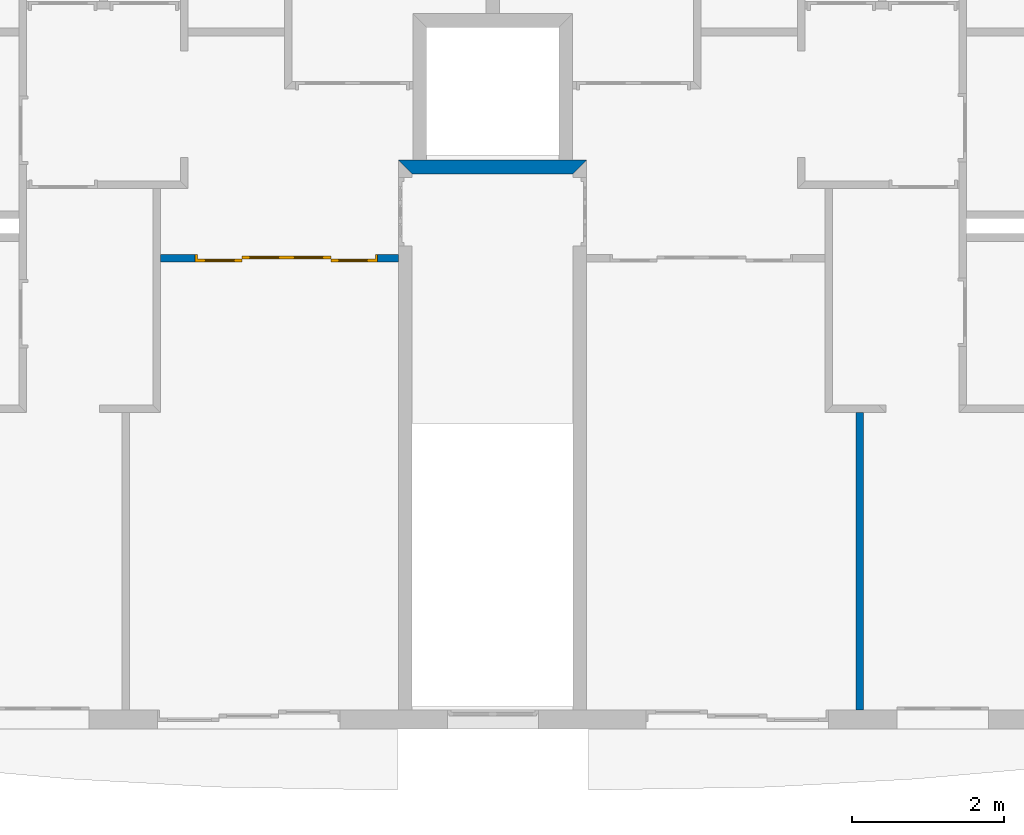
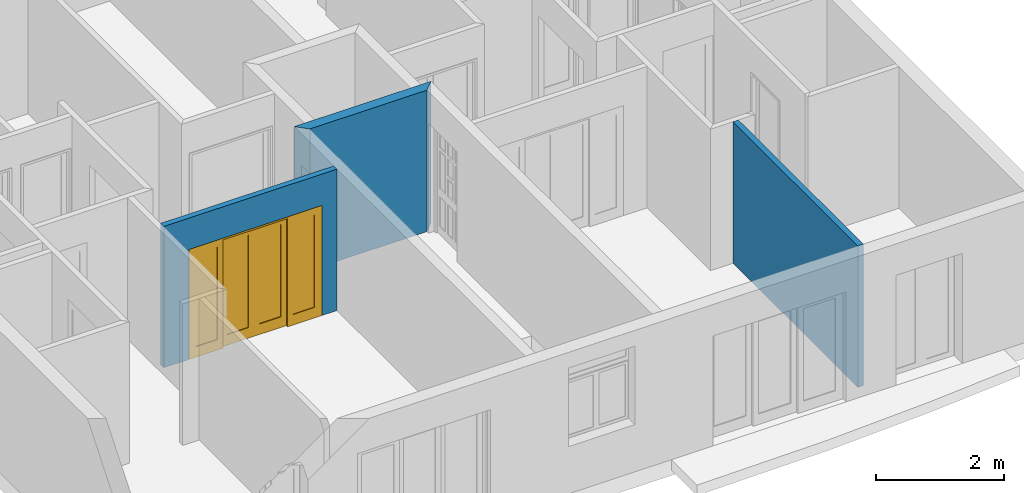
# One storey, part 6 of 13: 3 walls, 1 door, 1 opening.
"""IFC2X3 building model written with IfcOpenShell, lengths in metres."""

from ifc_helpers import new_model, entity, si_unit, converted_unit, direction, frame, frame_2d, origin_with_axes, place, context, project, spatial, polyline, rectangle, outline, extrude, faceted_brep, source, transform, mapped, material, layer, layer_set, layer_usage, type_object, element, fill, save


model = new_model("IFC2X3")

# Units and contexts
context_of_model = context(None, 3, precision=1e-05, world=origin_with_axes(), true_north=direction((6.123234e-17, 1.0)))
plan_context = context("Plan", 3, precision=1e-05, world=origin_with_axes(), true_north=direction((6.123234e-17, 1.0)))
model_context = context("Model", 3, precision=1e-05, world=origin_with_axes(), true_north=direction((6.123234e-17, 1.0)))
ifc_project = project(units=[si_unit("LENGTHUNIT", "METRE"), si_unit("AREAUNIT", "SQUARE_METRE"), si_unit("VOLUMEUNIT", "CUBIC_METRE"), converted_unit("PLANEANGLEUNIT", "DEGREE", entity("IfcPlaneAngleMeasure", 0.017453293), si_unit("PLANEANGLEUNIT", "RADIAN"), dimensions=[0, 0, 0, 0, 0, 0, 0]), si_unit("SOLIDANGLEUNIT", "STERADIAN"), si_unit("MASSUNIT", "GRAM"), si_unit("TIMEUNIT", "SECOND"), si_unit("THERMODYNAMICTEMPERATUREUNIT", "DEGREE_CELSIUS"), si_unit("LUMINOUSINTENSITYUNIT", "LUMEN")], contexts=[context_of_model, plan_context, model_context])

# Site, building, storey
site_placement = place(None, origin_with_axes())
site = spatial("IfcSite", under=ifc_project, at=site_placement, Name="Por defecto Sitio", CompositionType="ELEMENT")
building_placement = place(site_placement, origin_with_axes())
building = spatial("IfcBuilding", under=site, at=building_placement, Name="Por defecto Edificio", CompositionType="ELEMENT")
storey_placement = place(building_placement, frame((0.0, 0.0, 7.2), z_axis=(0.0, 0.0, 1.0), x_axis=(1.0, 0.0, 0.0)))
storey = spatial("IfcBuildingStorey", under=building, at=storey_placement, Name="Segunda", CompositionType="ELEMENT", Elevation=7.2)

# Walls
ifc_material = material(Name="Ladrillo común")
ifc_layer_1 = layer(ifc_material, 0.18, ventilated="UNKNOWN")
ifc_layer_set_1 = layer_set([ifc_layer_1], Name="Ladrillo común")
ifc_layer_usage_1 = layer_usage(ifc_layer_set_1, "AXIS2", "POSITIVE", 0.0)
wall_type_1 = type_object("IfcWallType", Name="Ladrillo común", PredefinedType="NOTDEFINED")
wall_1_placement = place(storey_placement, frame((6.9566603, 7.2976562, 0.0), z_axis=(0.0, 0.0, 1.0), x_axis=(1.0, 0.0, 0.0)))
element("IfcWallStandardCase", 1, at=wall_1_placement, inside=storey, type_object=wall_type_1, material=ifc_layer_usage_1, Name="Muro-009", context=context_of_model, shape_type="SweptSolid", body=[
    extrude(outline(polyline([(0.0, 0.0), (2.1125095, 0.0), (2.2925095, 0.18), (-0.18, 0.18), (0.0, 0.0)])), origin_with_axes(), (0.0, 0.0, 1.0), 2.7),
])
ifc_layer_2 = layer(ifc_material, 0.1, ventilated="UNKNOWN")
ifc_layer_set_2 = layer_set([ifc_layer_2], Name="Ladrillo común")
ifc_layer_usage_2 = layer_usage(ifc_layer_set_2, "AXIS2", "NEGATIVE", 0.0)
wall_type_2 = type_object("IfcWallType", Name="Ladrillo común", PredefinedType="NOTDEFINED")
wall_2_placement = place(storey_placement, frame((12.784859, -1.1368684e-13, 0.0), z_axis=(0.0, 0.0, 1.0), x_axis=(0.0, 1.0, 0.0)))
element("IfcWallStandardCase", 2, at=wall_2_placement, inside=storey, type_object=wall_type_2, material=ifc_layer_usage_2, Name="Muro-019", context=context_of_model, shape_type="SweptSolid", body=[
    extrude(outline(polyline([(0.25, -0.1), (4.1588613, -0.1), (4.1588613, 0.0), (0.25, 0.0), (0.25, -0.1)])), origin_with_axes(), (0.0, 0.0, 1.0), 2.7),
])

# Wall, opening, door
ifc_layer_usage_3 = layer_usage(ifc_layer_set_2, "AXIS2", "NEGATIVE", 0.05)
wall_3_placement = place(storey_placement, frame((6.9566603, 6.1881579, 0.0), z_axis=(0.0, 0.0, 1.0), x_axis=(-1.0, 0.0, 0.0)))
wall_3 = element("IfcWallStandardCase", 3, at=wall_3_placement, inside=storey, type_object=wall_type_2, material=ifc_layer_usage_3, Name="Muro-028", context=context_of_model, shape_type="SweptSolid", body=[
    extrude(outline(polyline([(0.18, -0.05), (3.3064951, -0.05), (3.3064951, 0.05), (0.18, 0.05), (0.18, -0.05)])), origin_with_axes(), (0.0, 0.0, 1.0), 2.7),
])
opening_placement = place(wall_3_placement, frame((1.6532475, -0.05, 0.0), z_axis=(0.0, 0.0, 1.0), x_axis=(1.0, 0.0, 0.0)))
opening = element("IfcOpeningElement", 4, at=opening_placement, cuts=wall_3, ObjectType="Opening", context=model_context, shape_type="SweptSolid", body=[
    extrude(rectangle(XDim=2.4, YDim=2.1, at=frame_2d((0.0, 1.05), x_axis=(-1.0, 0.0))), frame((0.0, 0.0, 0.0), z_axis=(0.0, 1.0, 0.0), x_axis=(-1.0, 0.0, 0.0)), (0.0, 0.0, 1.0), 0.1),
])
door_style = type_object("IfcDoorStyle", Name="P4 Corredera 12", ConstructionType="NOTDEFINED", OperationType="DOUBLE_DOOR_SLIDING", ParameterTakesPrecedence=False, Sizeable=False)
shared_shape = source(origin_with_axes(), model_context, "Body", "Brep", [
    faceted_brep([(2.368, 0.1, 0.0), (2.368, -8.8817842e-16, 0.0), (2.368, 0.0, 2.068), (2.368, 0.1, 2.068), (2.4, 0.1, 0.0), (2.4, -8.8817842e-16, 0.0), (2.4, 0.0, 2.068), (2.4, 0.1, 2.068)], [[[0, 1, 2, 3]], [[4, 5, 1, 0]], [[1, 5, 6, 2]], [[3, 2, 6, 7]], [[0, 3, 7, 4]], [[7, 6, 5, 4]]]),
    faceted_brep([(0.0, 0.1, 0.0), (0.0, 0.0, 0.0), (0.0, 0.0, 2.068), (0.0, 0.1, 2.068), (0.032, 0.1, 0.0), (0.032, 0.0, 0.0), (0.032, 0.0, 2.068), (0.032, 0.1, 2.068)], [[[0, 1, 2, 3]], [[4, 5, 1, 0]], [[1, 5, 6, 2]], [[3, 2, 6, 7]], [[0, 3, 7, 4]], [[7, 6, 5, 4]]]),
    faceted_brep([(2.4, 0.1, 2.1), (2.4, 0.0, 2.1), (2.4, 0.0, 2.068), (2.4, 0.1, 2.068), (0.0, 0.1, 2.1), (0.0, 0.0, 2.1), (0.0, 0.0, 2.068), (0.032, 0.0, 2.068), (2.368, 0.0, 2.068), (2.368, 0.1, 2.068), (0.032, 0.1, 2.068), (0.0, 0.1, 2.068)], [[[0, 1, 2, 3]], [[4, 5, 1, 0]], [[1, 5, 6, 7, 8, 2]], [[3, 2, 8, 9]], [[0, 3, 9, 10, 11, 4]], [[11, 6, 5, 4]], [[10, 7, 6, 11]], [[9, 8, 7, 10]]]),
    faceted_brep([(0.032, 0.1, 0.2), (0.132, 0.1, 0.2), (0.132, 0.06, 0.2), (0.032, 0.06, 0.2), (0.032, 0.1, 1.968), (0.132, 0.1, 1.968), (0.132, 0.06, 1.968), (0.032, 0.06, 1.968)], [[[0, 1, 2, 3]], [[0, 4, 5, 1]], [[1, 5, 6, 2]], [[3, 2, 6, 7]], [[4, 0, 3, 7]], [[5, 4, 7, 6]]]),
    faceted_brep([(0.616, 0.1, 0.2), (0.616, 0.1, 1.968), (0.616, 0.06, 1.968), (0.616, 0.06, 0.2), (0.516, 0.1, 0.2), (0.516, 0.1, 1.968), (0.516, 0.06, 1.968), (0.516, 0.06, 0.2)], [[[0, 1, 2, 3]], [[0, 4, 5, 1]], [[1, 5, 6, 2]], [[3, 2, 6, 7]], [[4, 0, 3, 7]], [[5, 4, 7, 6]]]),
    faceted_brep([(0.032, 0.1, 0.0), (0.616, 0.1, 0.0), (0.616, 0.06, 0.0), (0.032, 0.06, 0.0), (0.032, 0.1, 0.2), (0.132, 0.1, 0.2), (0.516, 0.1, 0.2), (0.616, 0.1, 0.2), (0.616, 0.06, 0.2), (0.516, 0.06, 0.2), (0.132, 0.06, 0.2), (0.032, 0.06, 0.2)], [[[0, 1, 2, 3]], [[0, 4, 5, 6, 7, 1]], [[1, 7, 8, 2]], [[3, 2, 8, 9, 10, 11]], [[4, 0, 3, 11]], [[5, 4, 11, 10]], [[6, 5, 10, 9]], [[7, 6, 9, 8]]]),
    faceted_brep([(0.032, 0.1, 2.068), (0.032, 0.1, 1.968), (0.032, 0.06, 1.968), (0.032, 0.06, 2.068), (0.616, 0.1, 2.068), (0.616, 0.1, 1.968), (0.516, 0.1, 1.968), (0.132, 0.1, 1.968), (0.132, 0.06, 1.968), (0.516, 0.06, 1.968), (0.616, 0.06, 1.968), (0.616, 0.06, 2.068)], [[[0, 1, 2, 3]], [[0, 4, 5, 6, 7, 1]], [[1, 7, 8, 2]], [[3, 2, 8, 9, 10, 11]], [[4, 0, 3, 11]], [[5, 4, 11, 10]], [[6, 5, 10, 9]], [[7, 6, 9, 8]]]),
    faceted_brep([(0.132, 0.086, 0.2), (0.516, 0.086, 0.2), (0.516, 0.074, 0.2), (0.132, 0.074, 0.2), (0.132, 0.086, 1.968), (0.516, 0.086, 1.968), (0.516, 0.074, 1.968), (0.132, 0.074, 1.968)], [[[0, 1, 2, 3]], [[0, 4, 5, 1]], [[1, 5, 6, 2]], [[3, 2, 6, 7]], [[4, 0, 3, 7]], [[5, 4, 7, 6]]]),
    faceted_brep([(2.368, 0.1, 0.2), (2.368, 0.06, 0.2), (2.268, 0.06, 0.2), (2.268, 0.1, 0.2), (2.368, 0.1, 1.968), (2.368, 0.06, 1.968), (2.268, 0.06, 1.968), (2.268, 0.1, 1.968)], [[[0, 1, 2, 3]], [[4, 5, 1, 0]], [[1, 5, 6, 2]], [[3, 2, 6, 7]], [[0, 3, 7, 4]], [[7, 6, 5, 4]]]),
    faceted_brep([(1.784, 0.1, 0.2), (1.784, 0.06, 0.2), (1.784, 0.06, 1.968), (1.784, 0.1, 1.968), (1.884, 0.1, 0.2), (1.884, 0.06, 0.2), (1.884, 0.06, 1.968), (1.884, 0.1, 1.968)], [[[0, 1, 2, 3]], [[4, 5, 1, 0]], [[1, 5, 6, 2]], [[3, 2, 6, 7]], [[0, 3, 7, 4]], [[7, 6, 5, 4]]]),
    faceted_brep([(2.368, 0.1, 0.0), (2.368, 0.06, 0.0), (1.784, 0.06, 0.0), (1.784, 0.1, 0.0), (2.368, 0.1, 0.2), (2.368, 0.06, 0.2), (2.268, 0.06, 0.2), (1.884, 0.06, 0.2), (1.784, 0.06, 0.2), (1.784, 0.1, 0.2), (1.884, 0.1, 0.2), (2.268, 0.1, 0.2)], [[[0, 1, 2, 3]], [[4, 5, 1, 0]], [[1, 5, 6, 7, 8, 2]], [[3, 2, 8, 9]], [[0, 3, 9, 10, 11, 4]], [[11, 6, 5, 4]], [[10, 7, 6, 11]], [[9, 8, 7, 10]]]),
    faceted_brep([(2.368, 0.1, 2.068), (2.368, 0.06, 2.068), (2.368, 0.06, 1.968), (2.368, 0.1, 1.968), (1.784, 0.1, 2.068), (1.784, 0.06, 2.068), (1.784, 0.06, 1.968), (1.884, 0.06, 1.968), (2.268, 0.06, 1.968), (2.268, 0.1, 1.968), (1.884, 0.1, 1.968), (1.784, 0.1, 1.968)], [[[0, 1, 2, 3]], [[4, 5, 1, 0]], [[1, 5, 6, 7, 8, 2]], [[3, 2, 8, 9]], [[0, 3, 9, 10, 11, 4]], [[11, 6, 5, 4]], [[10, 7, 6, 11]], [[9, 8, 7, 10]]]),
    faceted_brep([(2.268, 0.086, 0.2), (2.268, 0.074, 0.2), (1.884, 0.074, 0.2), (1.884, 0.086, 0.2), (2.268, 0.086, 1.968), (2.268, 0.074, 1.968), (1.884, 0.074, 1.968), (1.884, 0.086, 1.968)], [[[0, 1, 2, 3]], [[4, 5, 1, 0]], [[1, 5, 6, 2]], [[3, 2, 6, 7]], [[0, 3, 7, 4]], [[7, 6, 5, 4]]]),
    faceted_brep([(0.616, 0.06, 0.2), (0.716, 0.06, 0.2), (0.716, 0.02, 0.2), (0.616, 0.02, 0.2), (0.616, 0.06, 1.968), (0.716, 0.06, 1.968), (0.716, 0.02, 1.968), (0.616, 0.02, 1.968)], [[[0, 1, 2, 3]], [[0, 4, 5, 1]], [[1, 5, 6, 2]], [[3, 2, 6, 7]], [[4, 0, 3, 7]], [[5, 4, 7, 6]]]),
    faceted_brep([(1.2, 0.06, 0.2), (1.2, 0.06, 1.968), (1.2, 0.02, 1.968), (1.2, 0.02, 0.2), (1.1, 0.06, 0.2), (1.1, 0.06, 1.968), (1.1, 0.02, 1.968), (1.1, 0.02, 0.2)], [[[0, 1, 2, 3]], [[0, 4, 5, 1]], [[1, 5, 6, 2]], [[3, 2, 6, 7]], [[4, 0, 3, 7]], [[5, 4, 7, 6]]]),
    faceted_brep([(0.616, 0.06, 0.0), (1.2, 0.06, 0.0), (1.2, 0.02, 0.0), (0.616, 0.02, 0.0), (0.616, 0.06, 0.2), (0.716, 0.06, 0.2), (1.1, 0.06, 0.2), (1.2, 0.06, 0.2), (1.2, 0.02, 0.2), (1.1, 0.02, 0.2), (0.716, 0.02, 0.2), (0.616, 0.02, 0.2)], [[[0, 1, 2, 3]], [[0, 4, 5, 6, 7, 1]], [[1, 7, 8, 2]], [[3, 2, 8, 9, 10, 11]], [[4, 0, 3, 11]], [[5, 4, 11, 10]], [[6, 5, 10, 9]], [[7, 6, 9, 8]]]),
    faceted_brep([(0.616, 0.06, 2.068), (0.616, 0.06, 1.968), (0.616, 0.02, 1.968), (0.616, 0.02, 2.068), (1.2, 0.06, 2.068), (1.2, 0.06, 1.968), (1.1, 0.06, 1.968), (0.716, 0.06, 1.968), (0.716, 0.02, 1.968), (1.1, 0.02, 1.968), (1.2, 0.02, 1.968), (1.2, 0.02, 2.068)], [[[0, 1, 2, 3]], [[0, 4, 5, 6, 7, 1]], [[1, 7, 8, 2]], [[3, 2, 8, 9, 10, 11]], [[4, 0, 3, 11]], [[5, 4, 11, 10]], [[6, 5, 10, 9]], [[7, 6, 9, 8]]]),
    faceted_brep([(0.716, 0.046, 0.2), (1.1, 0.046, 0.2), (1.1, 0.034, 0.2), (0.716, 0.034, 0.2), (0.716, 0.046, 1.968), (1.1, 0.046, 1.968), (1.1, 0.034, 1.968), (0.716, 0.034, 1.968)], [[[0, 1, 2, 3]], [[0, 4, 5, 1]], [[1, 5, 6, 2]], [[3, 2, 6, 7]], [[4, 0, 3, 7]], [[5, 4, 7, 6]]]),
    faceted_brep([(1.784, 0.06, 0.2), (1.784, 0.02, 0.2), (1.684, 0.02, 0.2), (1.684, 0.06, 0.2), (1.784, 0.06, 1.968), (1.784, 0.02, 1.968), (1.684, 0.02, 1.968), (1.684, 0.06, 1.968)], [[[0, 1, 2, 3]], [[4, 5, 1, 0]], [[1, 5, 6, 2]], [[3, 2, 6, 7]], [[0, 3, 7, 4]], [[7, 6, 5, 4]]]),
    faceted_brep([(1.2, 0.06, 0.2), (1.2, 0.02, 0.2), (1.2, 0.02, 1.968), (1.2, 0.06, 1.968), (1.3, 0.06, 0.2), (1.3, 0.02, 0.2), (1.3, 0.02, 1.968), (1.3, 0.06, 1.968)], [[[0, 1, 2, 3]], [[4, 5, 1, 0]], [[1, 5, 6, 2]], [[3, 2, 6, 7]], [[0, 3, 7, 4]], [[7, 6, 5, 4]]]),
    faceted_brep([(1.784, 0.06, 0.0), (1.784, 0.02, 0.0), (1.2, 0.02, 0.0), (1.2, 0.06, 0.0), (1.784, 0.06, 0.2), (1.784, 0.02, 0.2), (1.684, 0.02, 0.2), (1.3, 0.02, 0.2), (1.2, 0.02, 0.2), (1.2, 0.06, 0.2), (1.3, 0.06, 0.2), (1.684, 0.06, 0.2)], [[[0, 1, 2, 3]], [[4, 5, 1, 0]], [[1, 5, 6, 7, 8, 2]], [[3, 2, 8, 9]], [[0, 3, 9, 10, 11, 4]], [[11, 6, 5, 4]], [[10, 7, 6, 11]], [[9, 8, 7, 10]]]),
    faceted_brep([(1.784, 0.06, 2.068), (1.784, 0.02, 2.068), (1.784, 0.02, 1.968), (1.784, 0.06, 1.968), (1.2, 0.06, 2.068), (1.2, 0.02, 2.068), (1.2, 0.02, 1.968), (1.3, 0.02, 1.968), (1.684, 0.02, 1.968), (1.684, 0.06, 1.968), (1.3, 0.06, 1.968), (1.2, 0.06, 1.968)], [[[0, 1, 2, 3]], [[4, 5, 1, 0]], [[1, 5, 6, 7, 8, 2]], [[3, 2, 8, 9]], [[0, 3, 9, 10, 11, 4]], [[11, 6, 5, 4]], [[10, 7, 6, 11]], [[9, 8, 7, 10]]]),
    faceted_brep([(1.684, 0.046, 0.2), (1.684, 0.034, 0.2), (1.3, 0.034, 0.2), (1.3, 0.046, 0.2), (1.684, 0.046, 1.968), (1.684, 0.034, 1.968), (1.3, 0.034, 1.968), (1.3, 0.046, 1.968)], [[[0, 1, 2, 3]], [[4, 5, 1, 0]], [[1, 5, 6, 2]], [[3, 2, 6, 7]], [[0, 3, 7, 4]], [[7, 6, 5, 4]]]),
])
door_placement = place(opening_placement, frame((-1.2, 0.0, 0.0), z_axis=(0.0, 0.0, 1.0), x_axis=(1.0, 0.0, 0.0)))
door = element("IfcDoor", 5, at=door_placement, inside=storey, type_object=door_style, Name="P21", OverallHeight=2.1, OverallWidth=2.4, context=model_context, shape_type="MappedRepresentation", body=[
    mapped(shared_shape, transform((0.0, 0.0, 0.0), scale=1.0)),
])
fill(opening, door)

save(model, "model.ifc")
